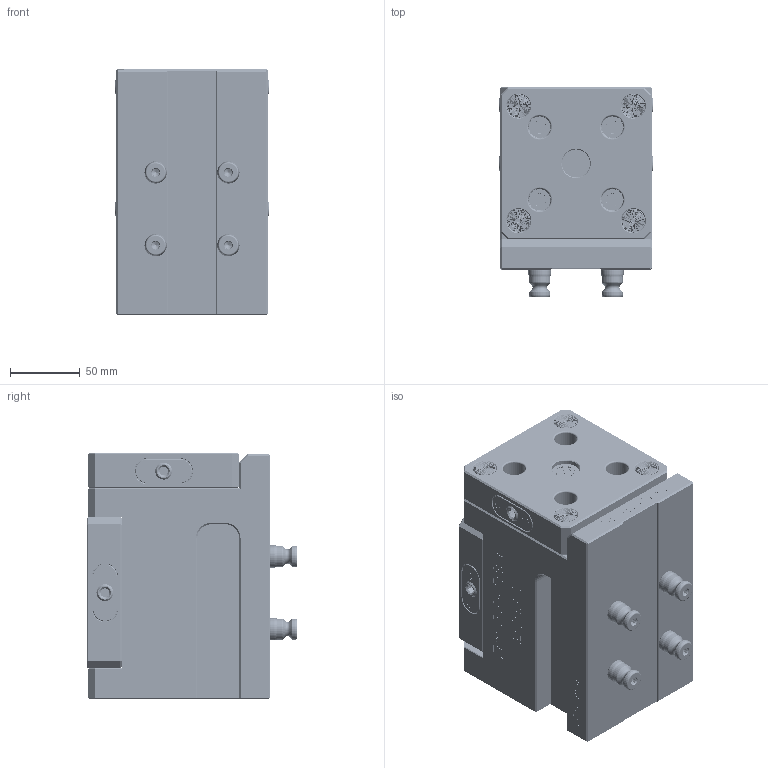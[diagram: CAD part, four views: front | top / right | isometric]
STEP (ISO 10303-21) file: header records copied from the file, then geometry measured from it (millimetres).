
FILE_DESCRIPTION((''),'2;1');
FILE_NAME('TS52-0090_SS','2023-11-22T16:01:05',('XF'),(''),'CREO PARAMETRIC BY PTC INC, 2022073','CREO PARAMETRIC BY PTC INC, 2022073','');
FILE_SCHEMA(('CONFIG_CONTROL_DESIGN'));
Products named in the file (1): TS52-0090_SS
Bounding box: 110 x 150.56 x 176 mm (x, y, z)
Volume: 2284910.9 mm3; surface area: 167130.7 mm2
Topology: 9 solids, 69 shells, 8684 faces, 21191 edges, 13576 vertices
Faces by surface type: plane 3563, cone 2496, extrusion 1917, cylinder 496, torus 152, bspline 60
Entity records: 268129 total; most frequent: CARTESIAN_POINT 68251, ORIENTED_EDGE 42350, DIRECTION 37160, EDGE_CURVE 21175, VECTOR 14026, VERTEX_POINT 13576, LINE 12109, AXIS2_PLACEMENT_3D 11567
